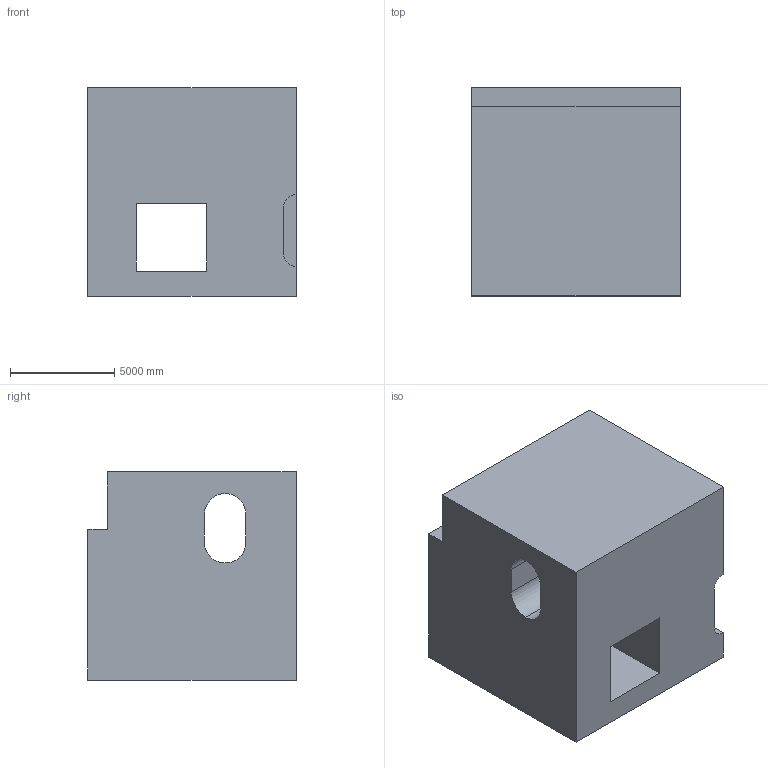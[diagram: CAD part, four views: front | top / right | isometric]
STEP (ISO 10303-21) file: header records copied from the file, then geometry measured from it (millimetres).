
FILE_DESCRIPTION (( 'STEP AP203' ), '1' );
FILE_NAME ('35.STEP', '2022-09-02T13:46:07', ( 'user' ), ( '' ), 'SwSTEP 2.0', 'SolidWorks 2021', '' );
FILE_SCHEMA (( 'CONFIG_CONTROL_DESIGN' ));
Length unit declared in the file: centimetre
Products named in the file (1): 35
Bounding box: 10000 x 10000 x 10000 mm (x, y, z)
Volume: 792182304538.9 mm3; surface area: 788543885.3 mm2
Topology: 1 solids, 1 shells, 21 faces, 57 edges, 38 vertices
Faces by surface type: plane 16, cylinder 5
Entity records: 746 total; most frequent: CARTESIAN_POINT 117, ORIENTED_EDGE 114, DIRECTION 111, EDGE_CURVE 57, VECTOR 47, LINE 47, VERTEX_POINT 38, AXIS2_PLACEMENT_3D 32
